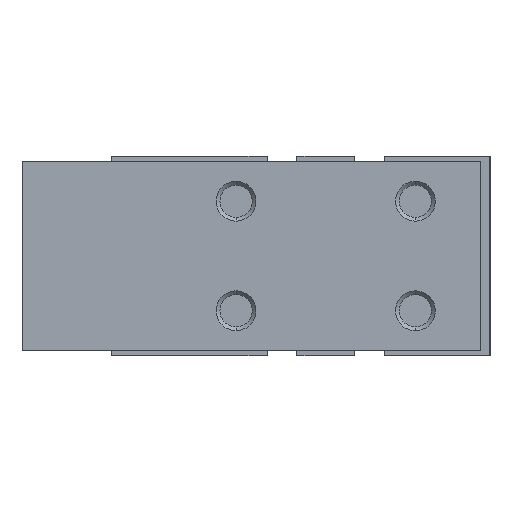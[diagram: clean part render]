
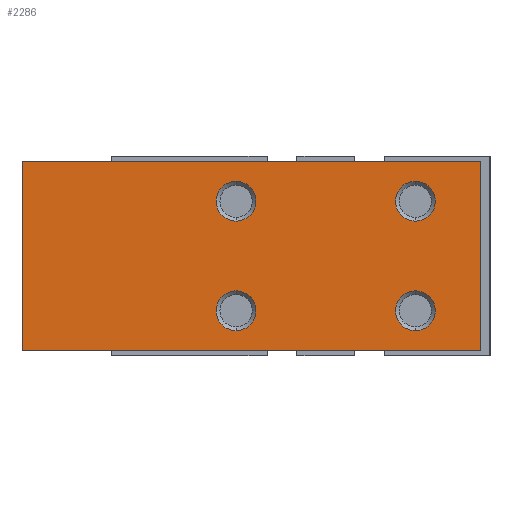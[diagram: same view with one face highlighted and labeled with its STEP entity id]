
A CAD part, left-side view. The second image highlights one B-rep face of the part: STEP entity #2286.
In plain terms, the highlighted planar face has unit normal (-1, 0, 0).
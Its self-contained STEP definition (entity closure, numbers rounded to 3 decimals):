
#127 = ORIENTED_EDGE ( 'NONE', *, *, #1248, .F. ) ;
#138 = EDGE_CURVE ( 'NONE', #4500, #4842, #3118, .T. ) ;
#146 = CARTESIAN_POINT ( 'NONE',  ( -11.5, -9., -7.5 ) ) ;
#165 = CARTESIAN_POINT ( 'NONE',  ( -11.5, -9., -3.5 ) ) ;
#172 = DIRECTION ( 'NONE',  ( 0., 0., -1. ) ) ;
#442 = CARTESIAN_POINT ( 'NONE',  ( -11.5, 30.5, 9.5 ) ) ;
#499 = VERTEX_POINT ( 'NONE', #5340 ) ;
#558 = EDGE_CURVE ( 'NONE', #1639, #4712, #4913, .T. ) ;
#599 = CIRCLE ( 'NONE', #5812, 2. ) ;
#662 = CARTESIAN_POINT ( 'NONE',  ( -11.5, 9., 3.5 ) ) ;
#697 = AXIS2_PLACEMENT_3D ( 'NONE', #1642, #3523, #4938 ) ;
#856 = CARTESIAN_POINT ( 'NONE',  ( -11.5, 9., -5.5 ) ) ;
#999 = VECTOR ( 'NONE', #2099, 1000. ) ;
#1086 = CARTESIAN_POINT ( 'NONE',  ( -11.5, 9., 5.5 ) ) ;
#1099 = CARTESIAN_POINT ( 'NONE',  ( -11.5, 30.5, -9.5 ) ) ;
#1193 = DIRECTION ( 'NONE',  ( 1., 0., 0. ) ) ;
#1232 = EDGE_LOOP ( 'NONE', ( #3409, #3073, #4912, #5199 ) ) ;
#1233 = DIRECTION ( 'NONE',  ( 0., -1., 0. ) ) ;
#1248 = EDGE_CURVE ( 'NONE', #3464, #2303, #2881, .T. ) ;
#1358 = EDGE_CURVE ( 'NONE', #4712, #1639, #3386, .T. ) ;
#1374 = AXIS2_PLACEMENT_3D ( 'NONE', #3342, #5354, #3374 ) ;
#1418 = EDGE_CURVE ( 'NONE', #2473, #3239, #6198, .T. ) ;
#1490 = ORIENTED_EDGE ( 'NONE', *, *, #1680, .F. ) ;
#1639 = VERTEX_POINT ( 'NONE', #4460 ) ;
#1642 = CARTESIAN_POINT ( 'NONE',  ( -11.5, 9., 5.5 ) ) ;
#1680 = EDGE_CURVE ( 'NONE', #5365, #6153, #2010, .T. ) ;
#1699 = VECTOR ( 'NONE', #4279, 1000. ) ;
#1704 = EDGE_CURVE ( 'NONE', #4842, #4500, #3008, .T. ) ;
#1795 = LINE ( 'NONE', #2180, #2538 ) ;
#1811 = DIRECTION ( 'NONE',  ( -1., 0., 0. ) ) ;
#1832 = VECTOR ( 'NONE', #172, 1000. ) ;
#1881 = AXIS2_PLACEMENT_3D ( 'NONE', #856, #2216, #2247 ) ;
#2010 = CIRCLE ( 'NONE', #697, 2. ) ;
#2090 = LINE ( 'NONE', #3567, #1832 ) ;
#2099 = DIRECTION ( 'NONE',  ( 0., 0., -1. ) ) ;
#2137 = FACE_OUTER_BOUND ( 'NONE', #1232, .T. ) ;
#2168 = FACE_BOUND ( 'NONE', #4534, .T. ) ;
#2180 = CARTESIAN_POINT ( 'NONE',  ( -11.5, 30.5, -9.5 ) ) ;
#2216 = DIRECTION ( 'NONE',  ( -1., 0., 0. ) ) ;
#2247 = DIRECTION ( 'NONE',  ( 0., 0., 1. ) ) ;
#2286 = ADVANCED_FACE ( 'NONE', ( #2137, #5493, #5971, #2168, #3192 ), #5111, .F. ) ;
#2303 = VERTEX_POINT ( 'NONE', #2608 ) ;
#2473 = VERTEX_POINT ( 'NONE', #3862 ) ;
#2538 = VECTOR ( 'NONE', #1233, 1000. ) ;
#2566 = AXIS2_PLACEMENT_3D ( 'NONE', #4552, #1193, #3108 ) ;
#2572 = LINE ( 'NONE', #2970, #999 ) ;
#2608 = CARTESIAN_POINT ( 'NONE',  ( -11.5, 9., -7.5 ) ) ;
#2705 = EDGE_CURVE ( 'NONE', #2303, #3464, #599, .T. ) ;
#2722 = CARTESIAN_POINT ( 'NONE',  ( -11.5, 9., -5.5 ) ) ;
#2730 = EDGE_LOOP ( 'NONE', ( #127, #3216 ) ) ;
#2811 = AXIS2_PLACEMENT_3D ( 'NONE', #5478, #5119, #4038 ) ;
#2881 = CIRCLE ( 'NONE', #1881, 2. ) ;
#2954 = EDGE_CURVE ( 'NONE', #3239, #499, #2572, .T. ) ;
#2970 = CARTESIAN_POINT ( 'NONE',  ( -11.5, -15.5, 9.5 ) ) ;
#3008 = CIRCLE ( 'NONE', #6116, 2. ) ;
#3022 = DIRECTION ( 'NONE',  ( 0., 0., 1. ) ) ;
#3041 = CIRCLE ( 'NONE', #3641, 2. ) ;
#3073 = ORIENTED_EDGE ( 'NONE', *, *, #2954, .F. ) ;
#3108 = DIRECTION ( 'NONE',  ( 0., 1., 0. ) ) ;
#3118 = CIRCLE ( 'NONE', #2811, 2. ) ;
#3192 = FACE_BOUND ( 'NONE', #4206, .T. ) ;
#3216 = ORIENTED_EDGE ( 'NONE', *, *, #2705, .F. ) ;
#3239 = VERTEX_POINT ( 'NONE', #4438 ) ;
#3342 = CARTESIAN_POINT ( 'NONE',  ( -11.5, -9., 5.5 ) ) ;
#3374 = DIRECTION ( 'NONE',  ( 0., 0., 1. ) ) ;
#3386 = CIRCLE ( 'NONE', #1374, 2. ) ;
#3409 = ORIENTED_EDGE ( 'NONE', *, *, #4995, .T. ) ;
#3464 = VERTEX_POINT ( 'NONE', #5984 ) ;
#3514 = AXIS2_PLACEMENT_3D ( 'NONE', #3876, #4835, #4742 ) ;
#3523 = DIRECTION ( 'NONE',  ( -1., 0., 0. ) ) ;
#3567 = CARTESIAN_POINT ( 'NONE',  ( -11.5, 30.5, 9.5 ) ) ;
#3641 = AXIS2_PLACEMENT_3D ( 'NONE', #1086, #3865, #5422 ) ;
#3673 = DIRECTION ( 'NONE',  ( 0., 0., 1. ) ) ;
#3862 = CARTESIAN_POINT ( 'NONE',  ( -11.5, 30.5, 9.5 ) ) ;
#3865 = DIRECTION ( 'NONE',  ( -1., 0., 0. ) ) ;
#3876 = CARTESIAN_POINT ( 'NONE',  ( -11.5, -9., 5.5 ) ) ;
#3997 = DIRECTION ( 'NONE',  ( -1., 0., 0. ) ) ;
#4038 = DIRECTION ( 'NONE',  ( 0., 0., 1. ) ) ;
#4080 = ORIENTED_EDGE ( 'NONE', *, *, #138, .F. ) ;
#4206 = EDGE_LOOP ( 'NONE', ( #1490, #4848 ) ) ;
#4279 = DIRECTION ( 'NONE',  ( 0., -1., 0. ) ) ;
#4366 = ORIENTED_EDGE ( 'NONE', *, *, #558, .F. ) ;
#4438 = CARTESIAN_POINT ( 'NONE',  ( -11.5, -15.5, 9.5 ) ) ;
#4460 = CARTESIAN_POINT ( 'NONE',  ( -11.5, -9., 3.5 ) ) ;
#4500 = VERTEX_POINT ( 'NONE', #146 ) ;
#4511 = EDGE_CURVE ( 'NONE', #2473, #5350, #2090, .T. ) ;
#4534 = EDGE_LOOP ( 'NONE', ( #5839, #4080 ) ) ;
#4552 = CARTESIAN_POINT ( 'NONE',  ( -11.5, 30.5, 9.5 ) ) ;
#4573 = EDGE_LOOP ( 'NONE', ( #5135, #4366 ) ) ;
#4712 = VERTEX_POINT ( 'NONE', #5725 ) ;
#4742 = DIRECTION ( 'NONE',  ( 0., 0., 1. ) ) ;
#4835 = DIRECTION ( 'NONE',  ( -1., 0., 0. ) ) ;
#4842 = VERTEX_POINT ( 'NONE', #165 ) ;
#4848 = ORIENTED_EDGE ( 'NONE', *, *, #5692, .F. ) ;
#4900 = CARTESIAN_POINT ( 'NONE',  ( -11.5, 9., 7.5 ) ) ;
#4912 = ORIENTED_EDGE ( 'NONE', *, *, #1418, .F. ) ;
#4913 = CIRCLE ( 'NONE', #3514, 2. ) ;
#4938 = DIRECTION ( 'NONE',  ( 0., 0., 1. ) ) ;
#4995 = EDGE_CURVE ( 'NONE', #5350, #499, #1795, .T. ) ;
#5111 = PLANE ( 'NONE',  #2566 ) ;
#5119 = DIRECTION ( 'NONE',  ( -1., 0., 0. ) ) ;
#5135 = ORIENTED_EDGE ( 'NONE', *, *, #1358, .F. ) ;
#5199 = ORIENTED_EDGE ( 'NONE', *, *, #4511, .T. ) ;
#5340 = CARTESIAN_POINT ( 'NONE',  ( -11.5, -15.5, -9.5 ) ) ;
#5350 = VERTEX_POINT ( 'NONE', #1099 ) ;
#5354 = DIRECTION ( 'NONE',  ( -1., 0., 0. ) ) ;
#5365 = VERTEX_POINT ( 'NONE', #4900 ) ;
#5422 = DIRECTION ( 'NONE',  ( 0., 0., 1. ) ) ;
#5471 = CARTESIAN_POINT ( 'NONE',  ( -11.5, -9., -5.5 ) ) ;
#5478 = CARTESIAN_POINT ( 'NONE',  ( -11.5, -9., -5.5 ) ) ;
#5493 = FACE_BOUND ( 'NONE', #2730, .T. ) ;
#5692 = EDGE_CURVE ( 'NONE', #6153, #5365, #3041, .T. ) ;
#5725 = CARTESIAN_POINT ( 'NONE',  ( -11.5, -9., 7.5 ) ) ;
#5812 = AXIS2_PLACEMENT_3D ( 'NONE', #2722, #1811, #3673 ) ;
#5839 = ORIENTED_EDGE ( 'NONE', *, *, #1704, .F. ) ;
#5971 = FACE_BOUND ( 'NONE', #4573, .T. ) ;
#5984 = CARTESIAN_POINT ( 'NONE',  ( -11.5, 9., -3.5 ) ) ;
#6116 = AXIS2_PLACEMENT_3D ( 'NONE', #5471, #3997, #3022 ) ;
#6153 = VERTEX_POINT ( 'NONE', #662 ) ;
#6198 = LINE ( 'NONE', #442, #1699 ) ;
